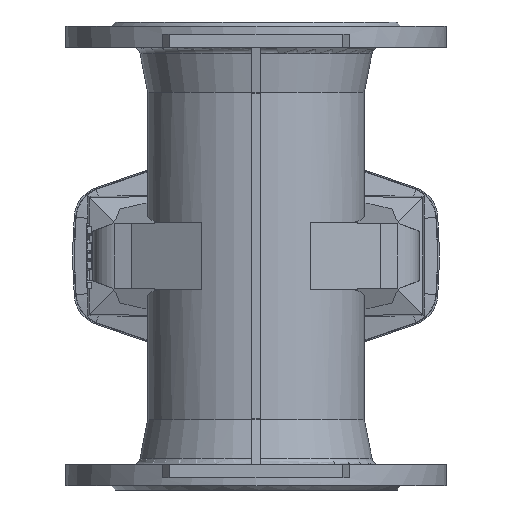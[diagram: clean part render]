
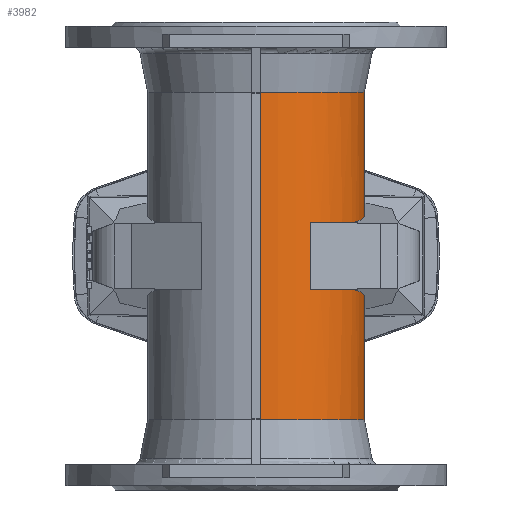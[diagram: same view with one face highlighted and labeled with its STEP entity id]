
A CAD part, front view. The second image highlights one B-rep face of the part: STEP entity #3982.
In plain terms, the highlighted cylindrical face has radius 81 mm (diameter 162 mm), a partial arc.
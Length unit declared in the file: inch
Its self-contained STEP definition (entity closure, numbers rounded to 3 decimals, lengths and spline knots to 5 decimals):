
#1592 = CYLINDRICAL_SURFACE ( 'NONE', #7247, 3.18898 ) ;
#1606 = FACE_OUTER_BOUND ( 'NONE', #10633, .T. ) ;
#1645 = LINE ( 'NONE', #2969, #1648 ) ;
#1647 = CIRCLE ( 'NONE', #4211, 3.18898 ) ;
#1648 = VECTOR ( 'NONE', #10808, 39.37008 ) ;
#1649 = CIRCLE ( 'NONE', #4219, 3.18898 ) ;
#2788 = CARTESIAN_POINT ( 'NONE',  ( 0., 0., 0. ) ) ;
#2791 = DIRECTION ( 'NONE',  ( 0., 0., 1. ) ) ;
#2793 = DIRECTION ( 'NONE',  ( -1., 0., 0. ) ) ;
#2961 = CARTESIAN_POINT ( 'NONE',  ( 2.1237, -2.45619, -0.98655 ) ) ;
#2963 = CARTESIAN_POINT ( 'NONE',  ( 2.5463, -2.01479, -0.97918 ) ) ;
#2965 = CARTESIAN_POINT ( 'NONE',  ( 2.72176, 3.09029, -1.61743 ) ) ;
#2966 = CARTESIAN_POINT ( 'NONE',  ( 2.82852, -1.47278, -0.97425 ) ) ;
#2967 = CARTESIAN_POINT ( 'NONE',  ( 1.59449, -2.76173, -0.99579 ) ) ;
#2968 = CARTESIAN_POINT ( 'NONE',  ( 0.11811, 3.18679, -1.67688 ) ) ;
#2969 = CARTESIAN_POINT ( 'NONE',  ( 0.11811, 3.18679, 0. ) ) ;
#2970 = CARTESIAN_POINT ( 'NONE',  ( 4.03179, 0.83816, -1.27782 ) ) ;
#2971 = CARTESIAN_POINT ( 'NONE',  ( 2.82852, -1.47278, -0.97425 ) ) ;
#3213 = CARTESIAN_POINT ( 'NONE',  ( 0.11811, -3.18679, 0. ) ) ;
#3214 = DIRECTION ( 'NONE',  ( 0., 0., 1. ) ) ;
#3982 = ADVANCED_FACE ( 'NONE', ( #1606 ), #1592, .T. ) ;
#4211 = AXIS2_PLACEMENT_3D ( 'NONE', #10810, #10811, #10812 ) ;
#4219 = AXIS2_PLACEMENT_3D ( 'NONE', #10813, #10814, #10815 ) ;
#5312 = EDGE_CURVE ( 'NONE', #10765, #10359, #9498, .T. ) ;
#5314 = EDGE_CURVE ( 'NONE', #10436, #10765, #9499, .T. ) ;
#5316 = EDGE_CURVE ( 'NONE', #10436, #10311, #1645, .T. ) ;
#5319 = EDGE_CURVE ( 'NONE', #10311, #10743, #1647, .T. ) ;
#5321 = EDGE_CURVE ( 'NONE', #10706, #10452, #1649, .T. ) ;
#5537 = EDGE_CURVE ( 'NONE', #10433, #10317, #9517, .T. ) ;
#5542 = EDGE_CURVE ( 'NONE', #10317, #10363, #9519, .T. ) ;
#5573 = EDGE_CURVE ( 'NONE', #10363, #10359, #11401, .T. ) ;
#5588 = EDGE_CURVE ( 'NONE', #10433, #10706, #11407, .T. ) ;
#5745 = EDGE_CURVE ( 'NONE', #10743, #10452, #11501, .T. ) ;
#7247 = AXIS2_PLACEMENT_3D ( 'NONE', #2788, #2791, #2793 ) ;
#7690 = CARTESIAN_POINT ( 'NONE',  ( 0.11811, 3.18679, -4.81428 ) ) ;
#7696 = CARTESIAN_POINT ( 'NONE',  ( 2.82852, -1.47278, 0.97425 ) ) ;
#7738 = CARTESIAN_POINT ( 'NONE',  ( 1.59449, -2.76173, -0.99579 ) ) ;
#7742 = CARTESIAN_POINT ( 'NONE',  ( 1.59449, -2.76173, 0.99579 ) ) ;
#7812 = CARTESIAN_POINT ( 'NONE',  ( 0.11811, 3.18679, 1.67688 ) ) ;
#7815 = CARTESIAN_POINT ( 'NONE',  ( 0.11811, 3.18679, -1.67688 ) ) ;
#7831 = CARTESIAN_POINT ( 'NONE',  ( 0.11811, -3.18679, 4.81428 ) ) ;
#7891 = CARTESIAN_POINT ( 'NONE',  ( 0.11811, 3.18679, 4.81428 ) ) ;
#7928 = CARTESIAN_POINT ( 'NONE',  ( 0.11811, -3.18679, -4.81428 ) ) ;
#7950 = CARTESIAN_POINT ( 'NONE',  ( 2.82852, -1.47278, -0.97425 ) ) ;
#9498 =( BOUNDED_CURVE ( )  B_SPLINE_CURVE ( 3, ( #2966, #2963, #2961, #2967 ),
 .UNSPECIFIED., .F., .F. ) 
 B_SPLINE_CURVE_WITH_KNOTS ( ( 4, 4 ),
 ( 3.62165, 4.18879 ),
 .UNSPECIFIED. ) 
 CURVE ( )  GEOMETRIC_REPRESENTATION_ITEM ( )  RATIONAL_B_SPLINE_CURVE ( ( 1., 0.973, 0.973, 1. ) ) 
 REPRESENTATION_ITEM ( '' )  );
#9499 =( BOUNDED_CURVE ( )  B_SPLINE_CURVE ( 3, ( #2968, #2965, #2970, #2971 ),
 .UNSPECIFIED., .F., .F. ) 
 B_SPLINE_CURVE_WITH_KNOTS ( ( 4, 4 ),
 ( 0.16181, 2.17563 ),
 .UNSPECIFIED. ) 
 CURVE ( )  GEOMETRIC_REPRESENTATION_ITEM ( )  RATIONAL_B_SPLINE_CURVE ( ( 1., 0.69, 0.69, 1. ) ) 
 REPRESENTATION_ITEM ( '' )  );
#9517 =( BOUNDED_CURVE ( )  B_SPLINE_CURVE ( 3, ( #11174, #11161, #11170, #11176 ),
 .UNSPECIFIED., .F., .T. ) 
 B_SPLINE_CURVE_WITH_KNOTS ( ( 4, 4 ),
 ( 0.16181, 2.17563 ),
 .UNSPECIFIED. ) 
 CURVE ( )  GEOMETRIC_REPRESENTATION_ITEM ( )  RATIONAL_B_SPLINE_CURVE ( ( 1., 0.69, 0.69, 1. ) ) 
 REPRESENTATION_ITEM ( '' )  );
#9519 =( BOUNDED_CURVE ( )  B_SPLINE_CURVE ( 3, ( #11173, #11180, #11186, #11187 ),
 .UNSPECIFIED., .F., .F. ) 
 B_SPLINE_CURVE_WITH_KNOTS ( ( 4, 4 ),
 ( 3.62165, 4.18879 ),
 .UNSPECIFIED. ) 
 CURVE ( )  GEOMETRIC_REPRESENTATION_ITEM ( )  RATIONAL_B_SPLINE_CURVE ( ( 1., 0.973, 0.973, 1. ) ) 
 REPRESENTATION_ITEM ( '' )  );
#10311 = VERTEX_POINT ( 'NONE', #7690 ) ;
#10317 = VERTEX_POINT ( 'NONE', #7696 ) ;
#10359 = VERTEX_POINT ( 'NONE', #7738 ) ;
#10363 = VERTEX_POINT ( 'NONE', #7742 ) ;
#10433 = VERTEX_POINT ( 'NONE', #7812 ) ;
#10436 = VERTEX_POINT ( 'NONE', #7815 ) ;
#10452 = VERTEX_POINT ( 'NONE', #7831 ) ;
#10633 = EDGE_LOOP ( 'NONE', ( #12231, #12232, #12233, #12234, #12235, #12236, #12237, #12238, #12239, #12240 ) ) ;
#10706 = VERTEX_POINT ( 'NONE', #7891 ) ;
#10743 = VERTEX_POINT ( 'NONE', #7928 ) ;
#10765 = VERTEX_POINT ( 'NONE', #7950 ) ;
#10808 = DIRECTION ( 'NONE',  ( 0., 0., -1. ) ) ;
#10810 = CARTESIAN_POINT ( 'NONE',  ( 0., 0., -4.81428 ) ) ;
#10811 = DIRECTION ( 'NONE',  ( 0., 0., -1. ) ) ;
#10812 = DIRECTION ( 'NONE',  ( -1., 0., 0. ) ) ;
#10813 = CARTESIAN_POINT ( 'NONE',  ( 0., 0., 4.81428 ) ) ;
#10814 = DIRECTION ( 'NONE',  ( 0., 0., -1. ) ) ;
#10815 = DIRECTION ( 'NONE',  ( -1., 0., 0. ) ) ;
#11161 = CARTESIAN_POINT ( 'NONE',  ( 2.72176, 3.09029, 1.61743 ) ) ;
#11170 = CARTESIAN_POINT ( 'NONE',  ( 4.03179, 0.83816, 1.27782 ) ) ;
#11173 = CARTESIAN_POINT ( 'NONE',  ( 2.82852, -1.47278, 0.97425 ) ) ;
#11174 = CARTESIAN_POINT ( 'NONE',  ( 0.11811, 3.18679, 1.67688 ) ) ;
#11176 = CARTESIAN_POINT ( 'NONE',  ( 2.82852, -1.47278, 0.97425 ) ) ;
#11180 = CARTESIAN_POINT ( 'NONE',  ( 2.5463, -2.01479, 0.97918 ) ) ;
#11186 = CARTESIAN_POINT ( 'NONE',  ( 2.1237, -2.45619, 0.98655 ) ) ;
#11187 = CARTESIAN_POINT ( 'NONE',  ( 1.59449, -2.76173, 0.99579 ) ) ;
#11227 = CARTESIAN_POINT ( 'NONE',  ( 1.59449, -2.76173, 6.88976 ) ) ;
#11228 = DIRECTION ( 'NONE',  ( 0., 0., -1. ) ) ;
#11256 = CARTESIAN_POINT ( 'NONE',  ( 0.11811, 3.18679, 0. ) ) ;
#11257 = DIRECTION ( 'NONE',  ( 0., 0., 1. ) ) ;
#11401 = LINE ( 'NONE', #11227, #11402 ) ;
#11402 = VECTOR ( 'NONE', #11228, 39.37008 ) ;
#11407 = LINE ( 'NONE', #11256, #11410 ) ;
#11410 = VECTOR ( 'NONE', #11257, 39.37008 ) ;
#11501 = LINE ( 'NONE', #3213, #11503 ) ;
#11503 = VECTOR ( 'NONE', #3214, 39.37008 ) ;
#12231 = ORIENTED_EDGE ( 'NONE', *, *, #5745, .F. ) ;
#12232 = ORIENTED_EDGE ( 'NONE', *, *, #5319, .F. ) ;
#12233 = ORIENTED_EDGE ( 'NONE', *, *, #5316, .F. ) ;
#12234 = ORIENTED_EDGE ( 'NONE', *, *, #5314, .T. ) ;
#12235 = ORIENTED_EDGE ( 'NONE', *, *, #5312, .T. ) ;
#12236 = ORIENTED_EDGE ( 'NONE', *, *, #5573, .F. ) ;
#12237 = ORIENTED_EDGE ( 'NONE', *, *, #5542, .F. ) ;
#12238 = ORIENTED_EDGE ( 'NONE', *, *, #5537, .F. ) ;
#12239 = ORIENTED_EDGE ( 'NONE', *, *, #5588, .T. ) ;
#12240 = ORIENTED_EDGE ( 'NONE', *, *, #5321, .T. ) ;
